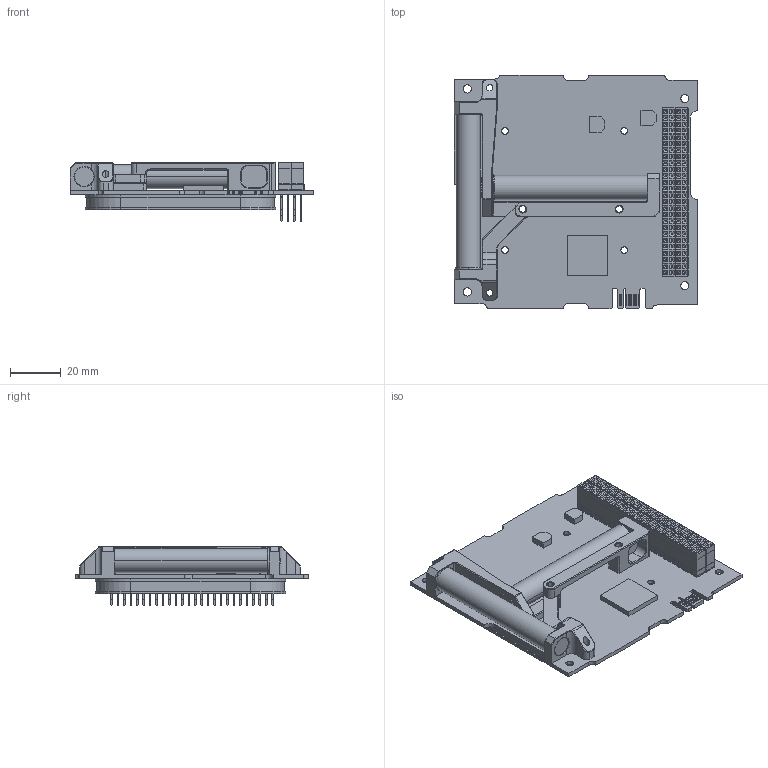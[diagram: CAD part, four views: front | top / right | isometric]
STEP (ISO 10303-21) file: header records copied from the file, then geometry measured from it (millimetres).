
FILE_DESCRIPTION((''),'2;1');
FILE_NAME('ISIS_IMTQ_V2_REVC_ASM','2017-05-12T',('jmig'),(''),'PRO/ENGINEER BY PARAMETRIC TECHNOLOGY CORPORATION, 2015110','PRO/ENGINEER BY PARAMETRIC TECHNOLOGY CORPORATION, 2015110','');
FILE_SCHEMA(('AUTOMOTIVE_DESIGN { 1 0 10303 214 1 1 1 1 }'));
Length unit declared in the file: millimetre
Products named in the file (8): IMTQ-V2_REVC; SAMTEC-ESQ-126-38-G-D; SAMTEC-ESQ-126-39-G-D; SAMTEC-SSQ-126-21-G-D; SAMTEC-SSQ-126-23-G-D; SAMTEC-TSW-126-07-G-D; CSKB_CONNECTORS_ASM; ISIS_IMTQ_V2_REVC_ASM
Assembly tree (12 placements, depth 3):
  ISIS_IMTQ_V2_REVC_ASM
    IMTQ-V2_REVC
    CSKB_CONNECTORS_ASM
      SAMTEC-ESQ-126-38-G-D  x2
      SAMTEC-ESQ-126-39-G-D  x2
      SAMTEC-SSQ-126-21-G-D  x2
      SAMTEC-SSQ-126-23-G-D  x2
      SAMTEC-TSW-126-07-G-D  x2
Bounding box: 96 x 92 x 23.24 mm (x, y, z)
Volume: 71879.2 mm3; surface area: 75334.9 mm2
Topology: 11 solids, 11 shells, 18642 faces, 49095 edges, 30397 vertices
Faces by surface type: plane 18169, cylinder 371, cone 92, bspline 10
Entity records: 360854 total; most frequent: CARTESIAN_POINT 51886, ORIENTED_EDGE 51024, DIRECTION 45910, EDGE_CURVE 25512, VECTOR 24660, LINE 24660, VERTEX_POINT 15813, EDGE_LOOP 10791
